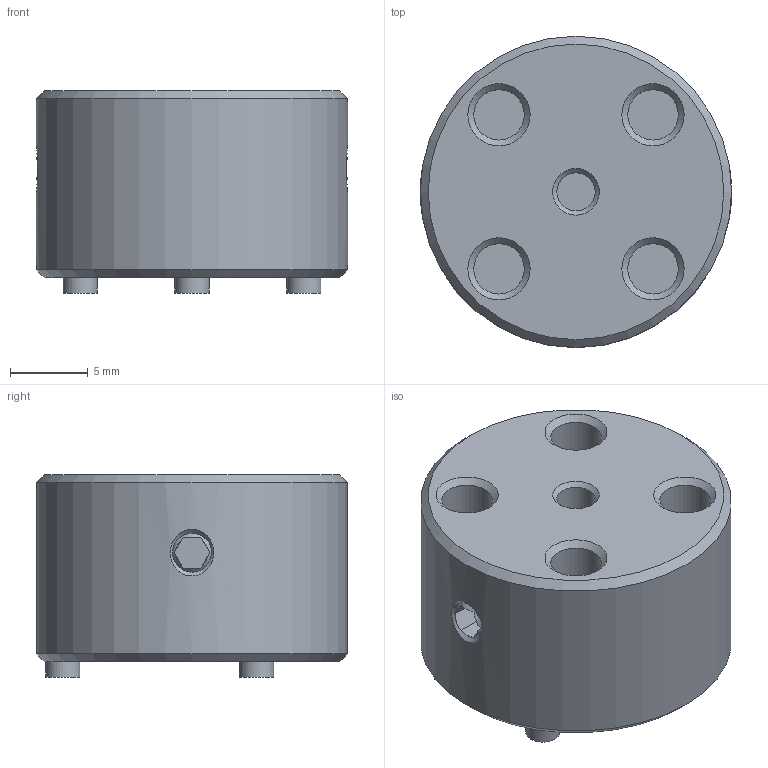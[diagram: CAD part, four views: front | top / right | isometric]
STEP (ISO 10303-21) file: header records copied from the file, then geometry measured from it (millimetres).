
FILE_DESCRIPTION( ( 'STEP AP214' ), ' ' );
FILE_NAME( 'p:/temp/worker_258/3868_5680/app_41_02017083015045260023807192d056f_000000_00_00_000000/format_0/MHPSC-20-CI.stp', '2017-08-30T13:04:53', ( '' ), ( '' ), ' ', 'PARTsolutions', ' ' );
FILE_SCHEMA( ( 'AUTOMOTIVE_DESIGN { 1 0 10303 214 1 1 1 1 }' ) );
Length unit declared in the file: millimetre
Products named in the file (1): _MHPSC-20-CI
Bounding box: 20 x 20 x 13 mm (x, y, z)
Volume: 3538.3 mm3; surface area: 1669.4 mm2
Topology: 1 solids, 1 shells, 52 faces, 119 edges, 78 vertices
Faces by surface type: plane 24, cylinder 17, cone 11
Full cylindrical faces by diameter (mm): 2.2 x3, 2.459 x1, 3.242 x4, 20 x1
Entity records: 1846 total; most frequent: CARTESIAN_POINT 405, DIRECTION 200, ORIENTED_EDGE 178, EDGE_CURVE 89, AXIS2_PLACEMENT_3D 88, EDGE_LOOP 82, VERTEX_POINT 69, FACE_OUTER_BOUND 61
